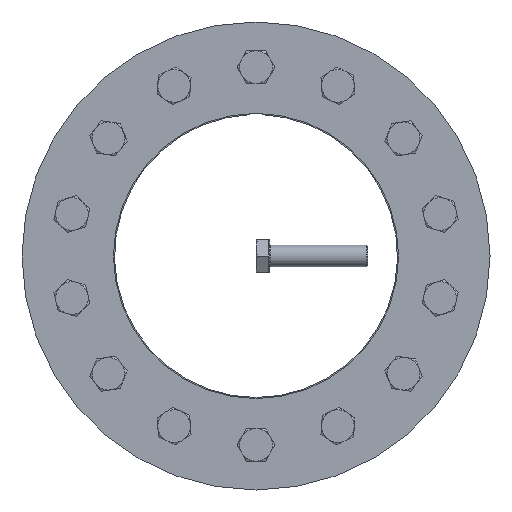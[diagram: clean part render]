
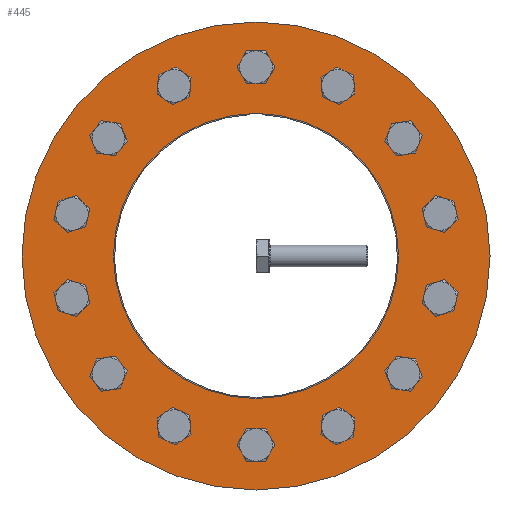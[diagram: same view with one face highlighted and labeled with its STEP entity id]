
A CAD part, front view. The second image highlights one B-rep face of the part: STEP entity #445.
In plain terms, the highlighted planar face has unit normal (0, -1, 0).
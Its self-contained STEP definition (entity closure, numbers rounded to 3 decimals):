
#445 = ADVANCED_FACE( '', ( #798, #799, #800, #801, #802, #803, #804, #805, #806, #807, #808, #809, #810, #811, #812, #813 ), #814, .F. );
#798 = FACE_BOUND( '', #1066, .T. );
#799 = FACE_BOUND( '', #1067, .T. );
#800 = FACE_BOUND( '', #1068, .T. );
#801 = FACE_BOUND( '', #1069, .T. );
#802 = FACE_BOUND( '', #1070, .T. );
#803 = FACE_BOUND( '', #1071, .T. );
#804 = FACE_BOUND( '', #1072, .T. );
#805 = FACE_BOUND( '', #1073, .T. );
#806 = FACE_OUTER_BOUND( '', #1074, .T. );
#807 = FACE_BOUND( '', #1075, .T. );
#808 = FACE_BOUND( '', #1076, .T. );
#809 = FACE_BOUND( '', #1077, .T. );
#810 = FACE_BOUND( '', #1078, .T. );
#811 = FACE_BOUND( '', #1079, .T. );
#812 = FACE_BOUND( '', #1080, .T. );
#813 = FACE_BOUND( '', #1081, .T. );
#814 = PLANE( '', #1082 );
#1066 = EDGE_LOOP( '', ( #1505 ) );
#1067 = EDGE_LOOP( '', ( #1506 ) );
#1068 = EDGE_LOOP( '', ( #1507 ) );
#1069 = EDGE_LOOP( '', ( #1508 ) );
#1070 = EDGE_LOOP( '', ( #1509 ) );
#1071 = EDGE_LOOP( '', ( #1510 ) );
#1072 = EDGE_LOOP( '', ( #1511 ) );
#1073 = EDGE_LOOP( '', ( #1512 ) );
#1074 = EDGE_LOOP( '', ( #1513 ) );
#1075 = EDGE_LOOP( '', ( #1514 ) );
#1076 = EDGE_LOOP( '', ( #1515 ) );
#1077 = EDGE_LOOP( '', ( #1516 ) );
#1078 = EDGE_LOOP( '', ( #1517 ) );
#1079 = EDGE_LOOP( '', ( #1518 ) );
#1080 = EDGE_LOOP( '', ( #1519 ) );
#1081 = EDGE_LOOP( '', ( #1520 ) );
#1082 = AXIS2_PLACEMENT_3D( '', #1521, #1522, #1523 );
#1505 = ORIENTED_EDGE( '', *, *, #1803, .T. );
#1506 = ORIENTED_EDGE( '', *, *, #1809, .T. );
#1507 = ORIENTED_EDGE( '', *, *, #1815, .T. );
#1508 = ORIENTED_EDGE( '', *, *, #1821, .T. );
#1509 = ORIENTED_EDGE( '', *, *, #1827, .T. );
#1510 = ORIENTED_EDGE( '', *, *, #1833, .T. );
#1511 = ORIENTED_EDGE( '', *, *, #1839, .T. );
#1512 = ORIENTED_EDGE( '', *, *, #1847, .F. );
#1513 = ORIENTED_EDGE( '', *, *, #1752, .T. );
#1514 = ORIENTED_EDGE( '', *, *, #1836, .T. );
#1515 = ORIENTED_EDGE( '', *, *, #1830, .T. );
#1516 = ORIENTED_EDGE( '', *, *, #1824, .T. );
#1517 = ORIENTED_EDGE( '', *, *, #1818, .T. );
#1518 = ORIENTED_EDGE( '', *, *, #1812, .T. );
#1519 = ORIENTED_EDGE( '', *, *, #1806, .T. );
#1520 = ORIENTED_EDGE( '', *, *, #1801, .T. );
#1521 = CARTESIAN_POINT( '', ( 0., -60., 215. ) );
#1522 = DIRECTION( '', ( 0., 1., 0. ) );
#1523 = DIRECTION( '', ( 0., 0., 1. ) );
#1752 = EDGE_CURVE( '', #1927, #1927, #1928, .T. );
#1801 = EDGE_CURVE( '', #2017, #2017, #2018, .T. );
#1803 = EDGE_CURVE( '', #2021, #2021, #2022, .T. );
#1806 = EDGE_CURVE( '', #2027, #2027, #2028, .T. );
#1809 = EDGE_CURVE( '', #2033, #2033, #2034, .T. );
#1812 = EDGE_CURVE( '', #2039, #2039, #2040, .T. );
#1815 = EDGE_CURVE( '', #2045, #2045, #2046, .T. );
#1818 = EDGE_CURVE( '', #2051, #2051, #2052, .T. );
#1821 = EDGE_CURVE( '', #2057, #2057, #2058, .T. );
#1824 = EDGE_CURVE( '', #2063, #2063, #2064, .T. );
#1827 = EDGE_CURVE( '', #2069, #2069, #2070, .T. );
#1830 = EDGE_CURVE( '', #2075, #2075, #2076, .T. );
#1833 = EDGE_CURVE( '', #2081, #2081, #2082, .T. );
#1836 = EDGE_CURVE( '', #2087, #2087, #2088, .T. );
#1839 = EDGE_CURVE( '', #2093, #2093, #2094, .T. );
#1847 = EDGE_CURVE( '', #2105, #2105, #2106, .T. );
#1927 = VERTEX_POINT( '', #2118 );
#1928 = CIRCLE( '', #2119, 215. );
#2017 = VERTEX_POINT( '', #2242 );
#2018 = CIRCLE( '', #2243, 10. );
#2021 = VERTEX_POINT( '', #2246 );
#2022 = CIRCLE( '', #2247, 10. );
#2027 = VERTEX_POINT( '', #2252 );
#2028 = CIRCLE( '', #2253, 10. );
#2033 = VERTEX_POINT( '', #2258 );
#2034 = CIRCLE( '', #2259, 10. );
#2039 = VERTEX_POINT( '', #2264 );
#2040 = CIRCLE( '', #2265, 10. );
#2045 = VERTEX_POINT( '', #2270 );
#2046 = CIRCLE( '', #2271, 10. );
#2051 = VERTEX_POINT( '', #2276 );
#2052 = CIRCLE( '', #2277, 10. );
#2057 = VERTEX_POINT( '', #2282 );
#2058 = CIRCLE( '', #2283, 10. );
#2063 = VERTEX_POINT( '', #2288 );
#2064 = CIRCLE( '', #2289, 10. );
#2069 = VERTEX_POINT( '', #2294 );
#2070 = CIRCLE( '', #2295, 10. );
#2075 = VERTEX_POINT( '', #2300 );
#2076 = CIRCLE( '', #2301, 10. );
#2081 = VERTEX_POINT( '', #2306 );
#2082 = CIRCLE( '', #2307, 10. );
#2087 = VERTEX_POINT( '', #2312 );
#2088 = CIRCLE( '', #2313, 10. );
#2093 = VERTEX_POINT( '', #2318 );
#2094 = CIRCLE( '', #2319, 10. );
#2105 = VERTEX_POINT( '', #2330 );
#2106 = CIRCLE( '', #2331, 131. );
#2118 = CARTESIAN_POINT( '', ( 0., -60., -215. ) );
#2119 = AXIS2_PLACEMENT_3D( '', #2348, #2349, #2350 );
#2242 = CARTESIAN_POINT( '', ( -66.269, -60., 160.657 ) );
#2243 = AXIS2_PLACEMENT_3D( '', #2439, #2440, #2441 );
#2246 = CARTESIAN_POINT( '', ( -129.413, -60., 115.994 ) );
#2247 = AXIS2_PLACEMENT_3D( '', #2445, #2446, #2447 );
#2252 = CARTESIAN_POINT( '', ( -166.925, -60., 48.357 ) );
#2253 = AXIS2_PLACEMENT_3D( '', #2454, #2455, #2456 );
#2258 = CARTESIAN_POINT( '', ( -171.375, -60., -28.858 ) );
#2259 = AXIS2_PLACEMENT_3D( '', #2463, #2464, #2465 );
#2264 = CARTESIAN_POINT( '', ( -141.883, -60., -100.357 ) );
#2265 = AXIS2_PLACEMENT_3D( '', #2472, #2473, #2474 );
#2270 = CARTESIAN_POINT( '', ( -84.289, -60., -151.979 ) );
#2271 = AXIS2_PLACEMENT_3D( '', #2481, #2482, #2483 );
#2276 = CARTESIAN_POINT( '', ( -10., -60., -173.5 ) );
#2277 = AXIS2_PLACEMENT_3D( '', #2490, #2491, #2492 );
#2282 = CARTESIAN_POINT( '', ( 66.269, -60., -160.657 ) );
#2283 = AXIS2_PLACEMENT_3D( '', #2499, #2500, #2501 );
#2288 = CARTESIAN_POINT( '', ( 129.413, -60., -115.994 ) );
#2289 = AXIS2_PLACEMENT_3D( '', #2508, #2509, #2510 );
#2294 = CARTESIAN_POINT( '', ( 166.925, -60., -48.357 ) );
#2295 = AXIS2_PLACEMENT_3D( '', #2517, #2518, #2519 );
#2300 = CARTESIAN_POINT( '', ( 171.375, -60., 28.858 ) );
#2301 = AXIS2_PLACEMENT_3D( '', #2526, #2527, #2528 );
#2306 = CARTESIAN_POINT( '', ( 141.883, -60., 100.357 ) );
#2307 = AXIS2_PLACEMENT_3D( '', #2535, #2536, #2537 );
#2312 = CARTESIAN_POINT( '', ( 84.289, -60., 151.979 ) );
#2313 = AXIS2_PLACEMENT_3D( '', #2544, #2545, #2546 );
#2318 = CARTESIAN_POINT( '', ( 10., -60., 173.5 ) );
#2319 = AXIS2_PLACEMENT_3D( '', #2553, #2554, #2555 );
#2330 = CARTESIAN_POINT( '', ( 0., -60., -131. ) );
#2331 = AXIS2_PLACEMENT_3D( '', #2577, #2578, #2579 );
#2348 = CARTESIAN_POINT( '', ( 0., -60., 0. ) );
#2349 = DIRECTION( '', ( 0., -1., 0. ) );
#2350 = DIRECTION( '', ( 0., 0., -1. ) );
#2439 = CARTESIAN_POINT( '', ( -75.279, -60., 156.318 ) );
#2440 = DIRECTION( '', ( 0., 1., 0. ) );
#2441 = DIRECTION( '', ( 0.901, 0., 0.434 ) );
#2445 = CARTESIAN_POINT( '', ( -135.648, -60., 108.175 ) );
#2446 = DIRECTION( '', ( 0., 1., 0. ) );
#2447 = DIRECTION( '', ( 0.623, 0., 0.782 ) );
#2454 = CARTESIAN_POINT( '', ( -169.15, -60., 38.607 ) );
#2455 = DIRECTION( '', ( 0., 1., 0. ) );
#2456 = DIRECTION( '', ( 0.223, 0., 0.975 ) );
#2463 = CARTESIAN_POINT( '', ( -169.15, -60., -38.607 ) );
#2464 = DIRECTION( '', ( 0., 1., 0. ) );
#2465 = DIRECTION( '', ( -0.223, 0., 0.975 ) );
#2472 = CARTESIAN_POINT( '', ( -135.648, -60., -108.175 ) );
#2473 = DIRECTION( '', ( 0., 1., 0. ) );
#2474 = DIRECTION( '', ( -0.623, 0., 0.782 ) );
#2481 = CARTESIAN_POINT( '', ( -75.279, -60., -156.318 ) );
#2482 = DIRECTION( '', ( 0., 1., 0. ) );
#2483 = DIRECTION( '', ( -0.901, 0., 0.434 ) );
#2490 = CARTESIAN_POINT( '', ( 0., -60., -173.5 ) );
#2491 = DIRECTION( '', ( 0., 1., 0. ) );
#2492 = DIRECTION( '', ( -1., 0., 0. ) );
#2499 = CARTESIAN_POINT( '', ( 75.279, -60., -156.318 ) );
#2500 = DIRECTION( '', ( 0., 1., 0. ) );
#2501 = DIRECTION( '', ( -0.901, 0., -0.434 ) );
#2508 = CARTESIAN_POINT( '', ( 135.648, -60., -108.175 ) );
#2509 = DIRECTION( '', ( 0., 1., 0. ) );
#2510 = DIRECTION( '', ( -0.623, 0., -0.782 ) );
#2517 = CARTESIAN_POINT( '', ( 169.15, -60., -38.607 ) );
#2518 = DIRECTION( '', ( 0., 1., 0. ) );
#2519 = DIRECTION( '', ( -0.223, 0., -0.975 ) );
#2526 = CARTESIAN_POINT( '', ( 169.15, -60., 38.607 ) );
#2527 = DIRECTION( '', ( 0., 1., 0. ) );
#2528 = DIRECTION( '', ( 0.223, 0., -0.975 ) );
#2535 = CARTESIAN_POINT( '', ( 135.648, -60., 108.175 ) );
#2536 = DIRECTION( '', ( 0., 1., 0. ) );
#2537 = DIRECTION( '', ( 0.623, 0., -0.782 ) );
#2544 = CARTESIAN_POINT( '', ( 75.279, -60., 156.318 ) );
#2545 = DIRECTION( '', ( 0., 1., 0. ) );
#2546 = DIRECTION( '', ( 0.901, 0., -0.434 ) );
#2553 = CARTESIAN_POINT( '', ( 0., -60., 173.5 ) );
#2554 = DIRECTION( '', ( 0., 1., 0. ) );
#2555 = DIRECTION( '', ( 1., 0., 0. ) );
#2577 = CARTESIAN_POINT( '', ( 0., -60., 0. ) );
#2578 = DIRECTION( '', ( 0., -1., 0. ) );
#2579 = DIRECTION( '', ( 0., 0., -1. ) );
